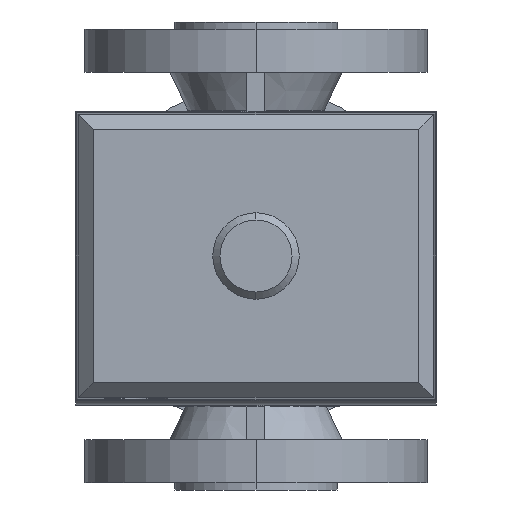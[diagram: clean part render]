
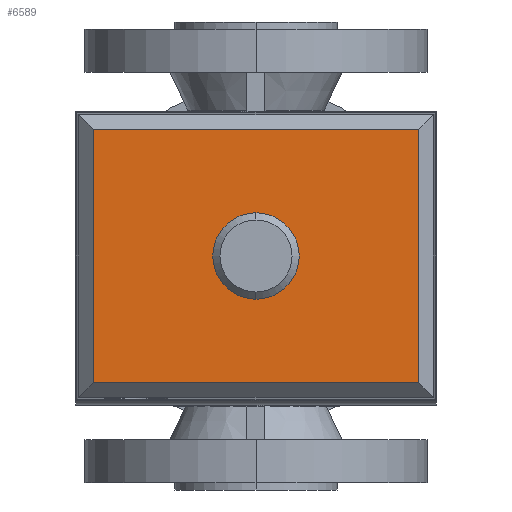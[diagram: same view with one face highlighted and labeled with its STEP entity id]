
A CAD part, front view. The second image highlights one B-rep face of the part: STEP entity #6589.
In plain terms, the highlighted planar face has unit normal (0, -1, 0).
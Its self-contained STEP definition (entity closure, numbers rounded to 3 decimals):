
#6414=CARTESIAN_POINT('',(45.222,-227.,100.222));
#6415=VERTEX_POINT('',#6414);
#6422=CARTESIAN_POINT('',(45.222,-227.,29.778));
#6423=VERTEX_POINT('',#6422);
#6424=CARTESIAN_POINT('',(45.222,-227.,100.222));
#6425=DIRECTION('',(0.0,0.0,-1.0));
#6426=VECTOR('',#6425,70.444);
#6427=LINE('',#6424,#6426);
#6428=EDGE_CURVE('',#6415,#6423,#6427,.T.);
#6453=CARTESIAN_POINT('',(-45.222,-227.,29.778));
#6454=VERTEX_POINT('',#6453);
#6455=CARTESIAN_POINT('',(45.222,-227.,29.778));
#6456=DIRECTION('',(-1.0,0.0,0.0));
#6457=VECTOR('',#6456,90.444);
#6458=LINE('',#6455,#6457);
#6459=EDGE_CURVE('',#6423,#6454,#6458,.T.);
#6483=CARTESIAN_POINT('',(-45.222,-227.,100.222));
#6484=VERTEX_POINT('',#6483);
#6491=CARTESIAN_POINT('',(-45.222,-227.,100.222));
#6492=DIRECTION('',(1.0,0.0,0.0));
#6493=VECTOR('',#6492,90.444);
#6494=LINE('',#6491,#6493);
#6495=EDGE_CURVE('',#6484,#6415,#6494,.T.);
#6513=CARTESIAN_POINT('',(-45.222,-227.,29.778));
#6514=DIRECTION('',(0.0,0.0,1.0));
#6515=VECTOR('',#6514,70.444);
#6516=LINE('',#6513,#6515);
#6517=EDGE_CURVE('',#6454,#6484,#6516,.T.);
#6578=CARTESIAN_POINT('',(0.,-227.,65.));
#6579=DIRECTION('',(0.0,1.0,0.0));
#6580=DIRECTION('',(0.0,0.0,-1.0));
#6581=AXIS2_PLACEMENT_3D('',#6578,#6579,#6580);
#6582=PLANE('',#6581);
#6583=ORIENTED_EDGE('',*,*,#6428,.F.);
#6584=ORIENTED_EDGE('',*,*,#6495,.F.);
#6585=ORIENTED_EDGE('',*,*,#6517,.F.);
#6586=ORIENTED_EDGE('',*,*,#6459,.F.);
#6587=EDGE_LOOP('',(#6583,#6584,#6585,#6586));
#6588=FACE_OUTER_BOUND('',#6587,.T.);
#6589=ADVANCED_FACE('',(#6588),#6582,.F.);
